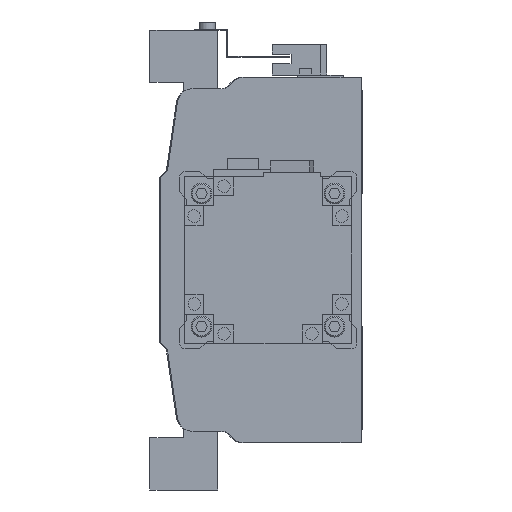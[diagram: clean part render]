
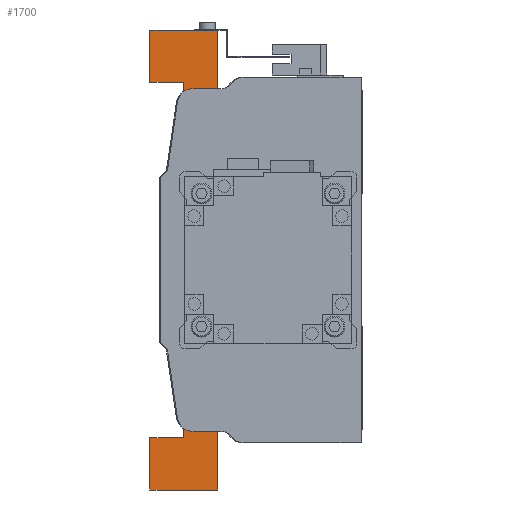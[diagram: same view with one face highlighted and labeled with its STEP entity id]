
A CAD part, left-side view. The second image highlights one B-rep face of the part: STEP entity #1700.
In plain terms, the highlighted planar face has unit normal (-1, 0, 0).
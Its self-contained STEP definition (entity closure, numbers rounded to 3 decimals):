
#1700 = ADVANCED_FACE( '', ( #3514 ), #3515, .F. );
#3514 = FACE_OUTER_BOUND( '', #5335, .T. );
#3515 = PLANE( '', #5336 );
#5335 = EDGE_LOOP( '', ( #9906, #9907, #9908, #9909, #9910, #9911, #9912, #9913, #9914, #9915, #9916, #9917, #9918, #9919, #9920, #9921 ) );
#5336 = AXIS2_PLACEMENT_3D( '', #9922, #9923, #9924 );
#9906 = ORIENTED_EDGE( '', *, *, #10528, .T. );
#9907 = ORIENTED_EDGE( '', *, *, #12108, .T. );
#9908 = ORIENTED_EDGE( '', *, *, #12161, .F. );
#9909 = ORIENTED_EDGE( '', *, *, #11327, .F. );
#9910 = ORIENTED_EDGE( '', *, *, #11739, .F. );
#9911 = ORIENTED_EDGE( '', *, *, #10578, .F. );
#9912 = ORIENTED_EDGE( '', *, *, #11674, .F. );
#9913 = ORIENTED_EDGE( '', *, *, #11992, .F. );
#9914 = ORIENTED_EDGE( '', *, *, #10901, .F. );
#9915 = ORIENTED_EDGE( '', *, *, #10817, .F. );
#9916 = ORIENTED_EDGE( '', *, *, #11341, .F. );
#9917 = ORIENTED_EDGE( '', *, *, #11195, .F. );
#9918 = ORIENTED_EDGE( '', *, *, #11916, .F. );
#9919 = ORIENTED_EDGE( '', *, *, #11370, .F. );
#9920 = ORIENTED_EDGE( '', *, *, #10453, .F. );
#9921 = ORIENTED_EDGE( '', *, *, #10843, .T. );
#9922 = CARTESIAN_POINT( '', ( -100., -56.5, 0. ) );
#9923 = DIRECTION( '', ( 1., 0., 0. ) );
#9924 = DIRECTION( '', ( 0., 0., -1. ) );
#10453 = EDGE_CURVE( '', #12422, #12424, #12425, .T. );
#10528 = EDGE_CURVE( '', #12558, #12559, #12560, .T. );
#10578 = EDGE_CURVE( '', #12645, #12647, #12648, .T. );
#10817 = EDGE_CURVE( '', #13067, #13068, #13069, .T. );
#10843 = EDGE_CURVE( '', #12422, #12558, #13108, .T. );
#10901 = EDGE_CURVE( '', #13068, #13202, #13203, .T. );
#11195 = EDGE_CURVE( '', #13667, #13668, #13669, .T. );
#11327 = EDGE_CURVE( '', #13865, #13866, #13867, .T. );
#11341 = EDGE_CURVE( '', #13668, #13067, #13887, .T. );
#11370 = EDGE_CURVE( '', #12424, #13931, #13932, .T. );
#11674 = EDGE_CURVE( '', #14375, #12645, #14376, .T. );
#11739 = EDGE_CURVE( '', #12647, #13865, #14462, .T. );
#11916 = EDGE_CURVE( '', #13931, #13667, #14694, .T. );
#11992 = EDGE_CURVE( '', #13202, #14375, #14787, .T. );
#12108 = EDGE_CURVE( '', #12559, #13088, #14919, .T. );
#12161 = EDGE_CURVE( '', #13866, #13088, #14979, .T. );
#12422 = VERTEX_POINT( '', #15323 );
#12424 = VERTEX_POINT( '', #15326 );
#12425 = LINE( '', #15327, #15328 );
#12558 = VERTEX_POINT( '', #15565 );
#12559 = VERTEX_POINT( '', #15566 );
#12560 = LINE( '', #15567, #15568 );
#12645 = VERTEX_POINT( '', #15684 );
#12647 = VERTEX_POINT( '', #15687 );
#12648 = LINE( '', #15688, #15689 );
#13067 = VERTEX_POINT( '', #16260 );
#13068 = VERTEX_POINT( '', #16261 );
#13069 = LINE( '', #16262, #16263 );
#13088 = VERTEX_POINT( '', #16287 );
#13108 = CIRCLE( '', #16313, 31. );
#13202 = VERTEX_POINT( '', #16443 );
#13203 = LINE( '', #16444, #16445 );
#13667 = VERTEX_POINT( '', #17087 );
#13668 = VERTEX_POINT( '', #17088 );
#13669 = LINE( '', #17089, #17090 );
#13865 = VERTEX_POINT( '', #17358 );
#13866 = VERTEX_POINT( '', #17359 );
#13867 = LINE( '', #17360, #17361 );
#13887 = LINE( '', #17389, #17390 );
#13931 = VERTEX_POINT( '', #17451 );
#13932 = LINE( '', #17452, #17453 );
#14375 = VERTEX_POINT( '', #18059 );
#14376 = LINE( '', #18060, #18061 );
#14462 = LINE( '', #18187, #18188 );
#14694 = LINE( '', #18512, #18513 );
#14787 = LINE( '', #18640, #18641 );
#14919 = CIRCLE( '', #18818, 31. );
#14979 = LINE( '', #18899, #18900 );
#15323 = CARTESIAN_POINT( '', ( -100., -77.5, -22.803 ) );
#15326 = CARTESIAN_POINT( '', ( -100., -77.5, -34. ) );
#15327 = CARTESIAN_POINT( '', ( -100., -77.5, -13.242 ) );
#15328 = VECTOR( '', #19079, 1000. );
#15565 = CARTESIAN_POINT( '', ( -100., -32.5, -19.622 ) );
#15566 = CARTESIAN_POINT( '', ( -100., -32.5, 19.622 ) );
#15567 = CARTESIAN_POINT( '', ( -100., -32.5, -19.622 ) );
#15568 = VECTOR( '', #19160, 1000. );
#15684 = CARTESIAN_POINT( '', ( -100., 0., 110. ) );
#15687 = CARTESIAN_POINT( '', ( -100., -32.5, 110. ) );
#15688 = CARTESIAN_POINT( '', ( -100., 0., 110. ) );
#15689 = VECTOR( '', #19214, 1000. );
#16260 = CARTESIAN_POINT( '', ( -100., 0., -85. ) );
#16261 = CARTESIAN_POINT( '', ( -100., -16., -85. ) );
#16262 = CARTESIAN_POINT( '', ( -100., 0., -85. ) );
#16263 = VECTOR( '', #19511, 1000. );
#16287 = CARTESIAN_POINT( '', ( -100., -77.5, 22.803 ) );
#16313 = AXIS2_PLACEMENT_3D( '', #19550, #19551, #19552 );
#16443 = CARTESIAN_POINT( '', ( -100., -16., 85. ) );
#16444 = CARTESIAN_POINT( '', ( -100., -16., -85. ) );
#16445 = VECTOR( '', #19607, 1000. );
#17087 = CARTESIAN_POINT( '', ( -100., -32.5, -110. ) );
#17088 = CARTESIAN_POINT( '', ( -100., 0., -110. ) );
#17089 = CARTESIAN_POINT( '', ( -100., -32.5, -110. ) );
#17090 = VECTOR( '', #19924, 1000. );
#17358 = CARTESIAN_POINT( '', ( -100., -32.5, 34. ) );
#17359 = CARTESIAN_POINT( '', ( -100., -77.5, 34. ) );
#17360 = CARTESIAN_POINT( '', ( -100., -32.5, 34. ) );
#17361 = VECTOR( '', #20075, 1000. );
#17389 = CARTESIAN_POINT( '', ( -100., 0., -110. ) );
#17390 = VECTOR( '', #20087, 1000. );
#17451 = CARTESIAN_POINT( '', ( -100., -32.5, -34. ) );
#17452 = CARTESIAN_POINT( '', ( -100., -77.5, -34. ) );
#17453 = VECTOR( '', #20114, 1000. );
#18059 = CARTESIAN_POINT( '', ( -100., 0., 85. ) );
#18060 = CARTESIAN_POINT( '', ( -100., 0., 85. ) );
#18061 = VECTOR( '', #20431, 1000. );
#18187 = CARTESIAN_POINT( '', ( -100., -32.5, 110. ) );
#18188 = VECTOR( '', #20487, 1000. );
#18512 = CARTESIAN_POINT( '', ( -100., -32.5, -34. ) );
#18513 = VECTOR( '', #20658, 1000. );
#18640 = CARTESIAN_POINT( '', ( -100., -16., 85. ) );
#18641 = VECTOR( '', #20726, 1000. );
#18818 = AXIS2_PLACEMENT_3D( '', #20814, #20815, #20816 );
#18899 = CARTESIAN_POINT( '', ( -100., -77.5, 34. ) );
#18900 = VECTOR( '', #20859, 1000. );
#19079 = DIRECTION( '', ( 0., 0., -1. ) );
#19160 = DIRECTION( '', ( 0., 0., 1. ) );
#19214 = DIRECTION( '', ( 0., -1., 0. ) );
#19511 = DIRECTION( '', ( 0., -1., 0. ) );
#19550 = CARTESIAN_POINT( '', ( -100., -56.5, 0. ) );
#19551 = DIRECTION( '', ( 1., 0., 0. ) );
#19552 = DIRECTION( '', ( 0., 0., -1. ) );
#19607 = DIRECTION( '', ( 0., 0., 1. ) );
#19924 = DIRECTION( '', ( 0., 1., 0. ) );
#20075 = DIRECTION( '', ( 0., -1., 0. ) );
#20087 = DIRECTION( '', ( 0., 0., 1. ) );
#20114 = DIRECTION( '', ( 0., 1., 0. ) );
#20431 = DIRECTION( '', ( 0., 0., 1. ) );
#20487 = DIRECTION( '', ( 0., 0., -1. ) );
#20658 = DIRECTION( '', ( 0., 0., -1. ) );
#20726 = DIRECTION( '', ( 0., 1., 0. ) );
#20814 = CARTESIAN_POINT( '', ( -100., -56.5, 0. ) );
#20815 = DIRECTION( '', ( 1., 0., 0. ) );
#20816 = DIRECTION( '', ( 0., 0., -1. ) );
#20859 = DIRECTION( '', ( 0., 0., -1. ) );
